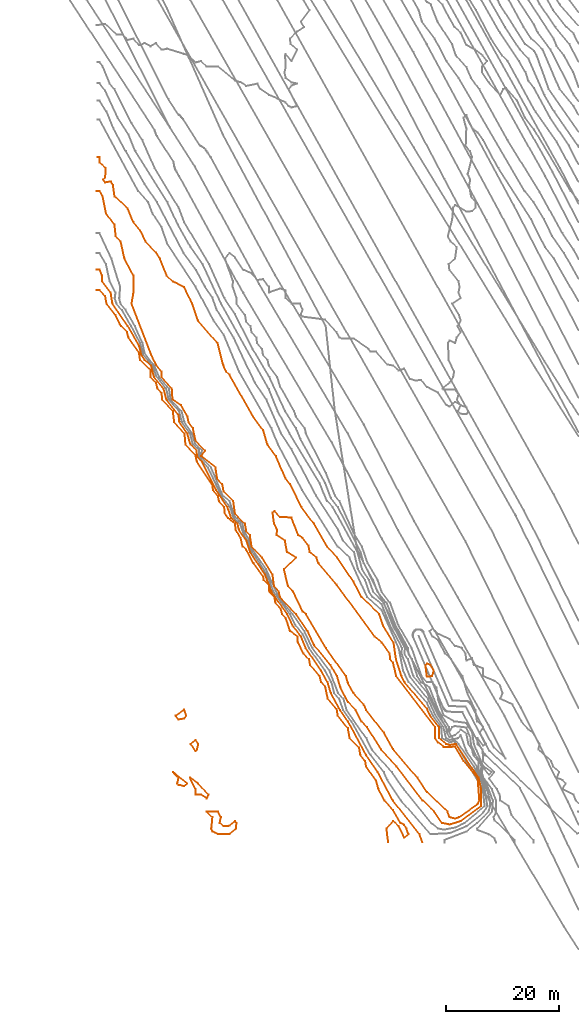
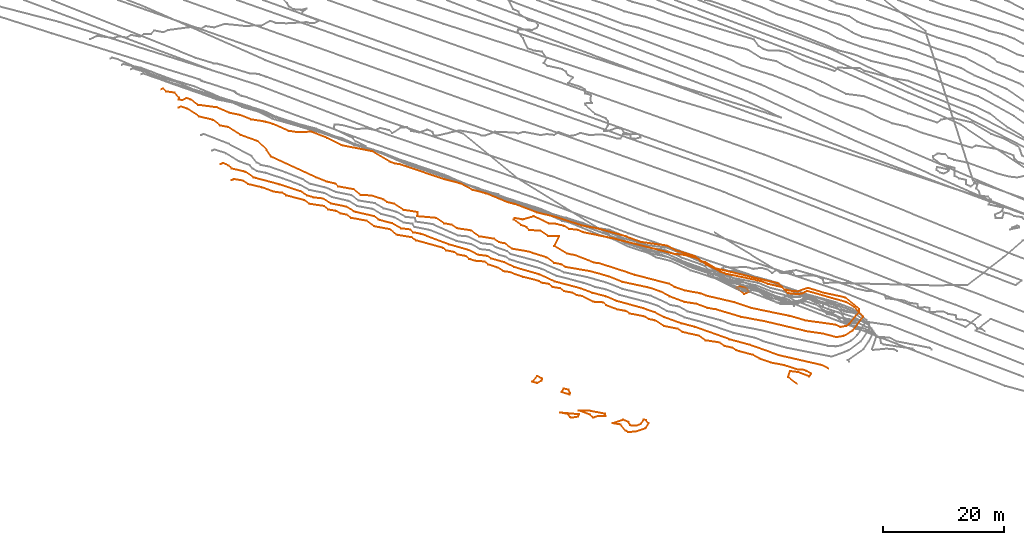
# Not in any storey, part 99 of 419: 10 proxies.
"""IFC2X3 model written with IfcOpenShell, lengths in metres."""

from ifc_helpers import new_model, entity, si_unit, frame, origin_with_axes, place, context, subcontext, project, element, save


model = new_model("IFC2X3")

# Units and contexts
model_context = context("Model", 3, precision=1e-05, world=origin_with_axes())
body_context = subcontext(model_context, "Body", "Model", "MODEL_VIEW")
ifc_project = project(units=[si_unit("AREAUNIT", "SQUARE_METRE"), si_unit("LENGTHUNIT", "METRE")], contexts=[model_context])

# Proxies
proxy_1_placement = place(None, frame((57.8288628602, 29.8976909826, 2.0), z_axis=(0.0, 0.0, 1.0), x_axis=(1.0, 0.0, 0.0)))
element("IfcBuildingElementProxy", 1, at=proxy_1_placement, Name="Contour 2.0 m", ObjectType="NOTDEFINED", context=body_context, shape_type="GeometricCurveSet", body=[
    entity("IfcGeometricCurveSet", [entity("IfcPolyline", [entity("IfcCartesianPoint", [0.2631575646, -2.0747663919, 0.0]), entity("IfcCartesianPoint", [1.1520466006, -2.0, 0.0]), entity("IfcCartesianPoint", [1.4853797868, -1.0, 0.0]), entity("IfcCartesianPoint", [0.8881575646, 0.0, 0.0]), entity("IfcCartesianPoint", [0.2631575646, 0.2272724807, 0.0]), entity("IfcCartesianPoint", [0.0, 0.0, 0.0]), entity("IfcCartesianPoint", [0.2631575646, -2.0747663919, 0.0])])]),
])
proxy_2_placement = place(None, frame((13.5465658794, 20.8976909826, 4.0), z_axis=(0.0, 0.0, 1.0), x_axis=(1.0, 0.0, 0.0)))
element("IfcBuildingElementProxy", 2, at=proxy_2_placement, Name="Contour 4.0 m", ObjectType="NOTDEFINED", context=body_context, shape_type="GeometricCurveSet", body=[
    entity("IfcGeometricCurveSet", [entity("IfcPolyline", [entity("IfcCartesianPoint", [1.909090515, 0.0, 0.0]), entity("IfcCartesianPoint", [1.5454545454, -0.5000062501, 0.0]), entity("IfcCartesianPoint", [0.5454545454, -0.666666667, 0.0]), entity("IfcCartesianPoint", [0.0, 0.0, 0.0]), entity("IfcCartesianPoint", [1.5454545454, 1.0454555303, 0.0]), entity("IfcCartesianPoint", [1.909090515, 0.0, 0.0])])]),
])
proxy_3_placement = place(None, frame((16.2586864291, 15.8976909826, 4.0), z_axis=(0.0, 0.0, 1.0), x_axis=(1.0, 0.0, 0.0)))
element("IfcBuildingElementProxy", 3, at=proxy_3_placement, Name="Contour 4.0 m", ObjectType="NOTDEFINED", context=body_context, shape_type="GeometricCurveSet", body=[
    entity("IfcGeometricCurveSet", [entity("IfcPolyline", [entity("IfcCartesianPoint", [1.083338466, -1.0, 0.0]), entity("IfcCartesianPoint", [0.8333339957, -1.2500044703, 0.0]), entity("IfcCartesianPoint", [0.0, 0.0, 0.0]), entity("IfcCartesianPoint", [0.8333339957, 0.7142866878, 0.0]), entity("IfcCartesianPoint", [1.3333451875, 0.0, 0.0]), entity("IfcCartesianPoint", [1.083338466, -1.0, 0.0])])]),
])
proxy_4_placement = place(None, frame((13.0920204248, 10.8977909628, 4.0), z_axis=(0.0, 0.0, 1.0), x_axis=(1.0, 0.0, 0.0)))
element("IfcBuildingElementProxy", 4, at=proxy_4_placement, Name="Contour 4.0 m", ObjectType="NOTDEFINED", context=body_context, shape_type="GeometricCurveSet", body=[
    entity("IfcGeometricCurveSet", [entity("IfcPolyline", [entity("IfcCartesianPoint", [2.5000559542, -2.0000999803, 0.0]), entity("IfcCartesianPoint", [2.0, -2.5001559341, 0.0]), entity("IfcCartesianPoint", [1.0, -2.2501044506, 0.0]), entity("IfcCartesianPoint", [0.7499955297, -2.0000999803, 0.0]), entity("IfcCartesianPoint", [0.9999000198, -1.0000999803, 0.0]), entity("IfcCartesianPoint", [0.0, 0.0, 0.0]), entity("IfcCartesianPoint", [2.5000559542, -2.0000999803, 0.0])])]),
])
proxy_5_placement = place(None, frame((16.0919204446, 9.8976909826, 4.0), z_axis=(0.0, 0.0, 1.0), x_axis=(1.0, 0.0, 0.0)))
element("IfcBuildingElementProxy", 5, at=proxy_5_placement, Name="Contour 4.0 m", ObjectType="NOTDEFINED", context=body_context, shape_type="GeometricCurveSet", body=[
    entity("IfcGeometricCurveSet", [entity("IfcPolyline", [entity("IfcCartesianPoint", [3.2858142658, -3.0, 0.0]), entity("IfcCartesianPoint", [3.0000999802, -3.666666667, 0.0]), entity("IfcCartesianPoint", [2.0000999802, -3.0000499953, 0.0]), entity("IfcCartesianPoint", [1.0000999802, -3.0000999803, 0.0]), entity("IfcCartesianPoint", [1.0000499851, -2.0, 0.0]), entity("IfcCartesianPoint", [0.0, 0.0, 0.0]), entity("IfcCartesianPoint", [1.5001559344, -1.0, 0.0]), entity("IfcCartesianPoint", [3.2858142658, -3.0, 0.0])])]),
])
proxy_6_placement = place(None, frame((30.7586870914, 56.8976909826, 9.0), z_axis=(0.0, 0.0, 1.0), x_axis=(1.0, 0.0, 0.0)))
element("IfcBuildingElementProxy", 6, at=proxy_6_placement, Name="Contour 9.0 m", ObjectType="NOTDEFINED", context=body_context, shape_type="GeometricCurveSet", body=[
    entity("IfcGeometricCurveSet", [entity("IfcPolyline", [entity("IfcCartesianPoint", [33.02777844, -54.0, 0.0]), entity("IfcCartesianPoint", [32.3333333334, -54.229357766, 0.0]), entity("IfcCartesianPoint", [31.3717957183, -54.0, 0.0]), entity("IfcCartesianPoint", [30.9674804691, -53.0, 0.0]), entity("IfcCartesianPoint", [27.3333333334, -49.5142860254, 0.0]), entity("IfcCartesianPoint", [25.6666657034, -47.0, 0.0]), entity("IfcCartesianPoint", [21.3333333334, -41.9090889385, 0.0]), entity("IfcCartesianPoint", [19.7117127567, -39.0, 0.0]), entity("IfcCartesianPoint", [16.5980395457, -35.0, 0.0]), entity("IfcCartesianPoint", [16.1583339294, -34.0, 0.0]), entity("IfcCartesianPoint", [14.3333305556, -32.0, 0.0]), entity("IfcCartesianPoint", [13.3333333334, -30.2352937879, 0.0]), entity("IfcCartesianPoint", [12.9999989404, -29.0, 0.0]), entity("IfcCartesianPoint", [9.4444467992, -24.0, 0.0]), entity("IfcCartesianPoint", [5.9047599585, -18.0, 0.0]), entity("IfcCartesianPoint", [5.3333333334, -17.5294124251, 0.0]), entity("IfcCartesianPoint", [3.6410250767, -14.0, 0.0]), entity("IfcCartesianPoint", [2.7179498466, -13.0, 0.0]), entity("IfcCartesianPoint", [2.0000035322, -10.0, 0.0]), entity("IfcCartesianPoint", [4.1190485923, -8.0, 0.0]), entity("IfcCartesianPoint", [2.5476180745, -7.0, 0.0]), entity("IfcCartesianPoint", [2.1794837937, -5.0, 0.0]), entity("IfcCartesianPoint", [0.7083303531, -4.0, 0.0]), entity("IfcCartesianPoint", [0.7878799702, -3.0, 0.0]), entity("IfcCartesianPoint", [0.2619033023, -2.0, 0.0]), entity("IfcCartesianPoint", [0.0, 0.0, 0.0]), entity("IfcCartesianPoint", [0.3333333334, 0.2500059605, 0.0]), entity("IfcCartesianPoint", [1.3333333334, -0.7999961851, 0.0]), entity("IfcCartesianPoint", [3.3333333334, -0.8823503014, 0.0]), entity("IfcCartesianPoint", [4.533337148, -4.0, 0.0]), entity("IfcCartesianPoint", [5.3333333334, -4.5333341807, 0.0]), entity("IfcCartesianPoint", [6.3333333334, -5.8181786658, 0.0]), entity("IfcCartesianPoint", [6.5833313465, -7.0, 0.0]), entity("IfcCartesianPoint", [7.7708318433, -8.0, 0.0]), entity("IfcCartesianPoint", [8.1190485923, -9.0, 0.0]), entity("IfcCartesianPoint", [11.3333333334, -12.7333329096, 0.0]), entity("IfcCartesianPoint", [18.0952372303, -22.0, 0.0]), entity("IfcCartesianPoint", [19.3333362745, -23.0, 0.0]), entity("IfcCartesianPoint", [20.7564101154, -25.0, 0.0]), entity("IfcCartesianPoint", [20.7916667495, -26.0, 0.0]), entity("IfcCartesianPoint", [21.3333333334, -26.5531916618, 0.0]), entity("IfcCartesianPoint", [21.9029533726, -29.0, 0.0]), entity("IfcCartesianPoint", [28.8123248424, -38.0, 0.0]), entity("IfcCartesianPoint", [28.7793763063, -40.0, 0.0]), entity("IfcCartesianPoint", [29.3333333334, -40.7333336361, 0.0]), entity("IfcCartesianPoint", [30.3333333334, -41.5422538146, 0.0]), entity("IfcCartesianPoint", [32.3333333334, -41.5076921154, 0.0]), entity("IfcCartesianPoint", [33.8579236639, -44.0, 0.0]), entity("IfcCartesianPoint", [36.3333333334, -47.0273978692, 0.0]), entity("IfcCartesianPoint", [36.6314983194, -51.0, 0.0]), entity("IfcCartesianPoint", [36.3333333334, -51.6701031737, 0.0]), entity("IfcCartesianPoint", [33.02777844, -54.0, 0.0])])]),
])
proxy_7_placement = place(None, frame((-0.4079795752, 113.8976709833, 8.0), z_axis=(0.0, 0.0, 1.0), x_axis=(1.0, 0.0, 0.0)))
element("IfcBuildingElementProxy", 7, at=proxy_7_placement, Name="Contour 8.0 m", ObjectType="NOTDEFINED", context=body_context, shape_type="GeometricCurveSet", body=[
    entity("IfcGeometricCurveSet", [entity("IfcPolyline", [entity("IfcCartesianPoint", [0.0, 6.0000266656, 0.0]), entity("IfcCartesianPoint", [0.5, 6.0000266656, 0.0]), entity("IfcCartesianPoint", [0.5000055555, 5.0000199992, 0.0]), entity("IfcCartesianPoint", [1.5869583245, 4.0000199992, 0.0]), entity("IfcCartesianPoint", [1.5, 2.3333533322, 0.0]), entity("IfcCartesianPoint", [1.1666666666, 2.0000199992, 0.0]), entity("IfcCartesianPoint", [1.5, 1.5000699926, 0.0]), entity("IfcCartesianPoint", [2.5, 1.6666866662, 0.0]), entity("IfcCartesianPoint", [2.8636355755, 1.0000199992, 0.0]), entity("IfcCartesianPoint", [3.1666666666, -0.9999800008, 0.0]), entity("IfcCartesianPoint", [5.5, -3.14283909, 0.0]), entity("IfcCartesianPoint", [6.5, -5.5714105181, 0.0]), entity("IfcCartesianPoint", [7.7222257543, -6.9999800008, 0.0]), entity("IfcCartesianPoint", [8.6666699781, -8.9999800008, 0.0]), entity("IfcCartesianPoint", [10.5, -10.8999780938, 0.0]), entity("IfcCartesianPoint", [11.1842109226, -11.9999800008, 0.0]), entity("IfcCartesianPoint", [12.4090893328, -14.9999800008, 0.0]), entity("IfcCartesianPoint", [13.5, -16.0908906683, 0.0]), entity("IfcCartesianPoint", [15.5, -17.0526126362, 0.0]), entity("IfcCartesianPoint", [16.9230760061, -19.9999800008, 0.0]), entity("IfcCartesianPoint", [17.9374985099, -22.9999800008, 0.0]), entity("IfcCartesianPoint", [21.4210522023, -26.9999800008, 0.0]), entity("IfcCartesianPoint", [22.4374985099, -30.9999800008, 0.0]), entity("IfcCartesianPoint", [22.9444444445, -31.9999800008, 0.0]), entity("IfcCartesianPoint", [23.5, -32.5555355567, 0.0]), entity("IfcCartesianPoint", [27.7173918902, -39.9999800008, 0.0]), entity("IfcCartesianPoint", [29.5, -42.4285520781, 0.0]), entity("IfcCartesianPoint", [30.2608695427, -44.9999800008, 0.0]), entity("IfcCartesianPoint", [31.7372886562, -46.9999800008, 0.0]), entity("IfcCartesianPoint", [33.4787229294, -50.9999800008, 0.0]), entity("IfcCartesianPoint", [34.3039216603, -51.9999800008, 0.0]), entity("IfcCartesianPoint", [36.2619047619, -55.9999800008, 0.0]), entity("IfcCartesianPoint", [38.5, -58.9999767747, 0.0]), entity("IfcCartesianPoint", [40.8269232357, -62.9999800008, 0.0]), entity("IfcCartesianPoint", [42.6304355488, -64.9999800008, 0.0]), entity("IfcCartesianPoint", [45.5, -69.2608492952, 0.0]), entity("IfcCartesianPoint", [46.9157302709, -71.9999800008, 0.0]), entity("IfcCartesianPoint", [50.0520833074, -74.9999800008, 0.0]), entity("IfcCartesianPoint", [50.7333331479, -76.9999800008, 0.0]), entity("IfcCartesianPoint", [52.5802137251, -79.9999800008, 0.0]), entity("IfcCartesianPoint", [53.0248225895, -82.9999800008, 0.0]), entity("IfcCartesianPoint", [53.9962405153, -85.9999800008, 0.0]), entity("IfcCartesianPoint", [54.5229005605, -86.9999800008, 0.0]), entity("IfcCartesianPoint", [58.5, -91.7790501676, 0.0]), entity("IfcCartesianPoint", [59.0728644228, -92.9999800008, 0.0]), entity("IfcCartesianPoint", [60.6496063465, -94.9999800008, 0.0]), entity("IfcCartesianPoint", [60.6321836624, -96.9999800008, 0.0]), entity("IfcCartesianPoint", [61.8709673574, -97.9999800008, 0.0]), entity("IfcCartesianPoint", [62.5, -98.1920981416, 0.0]), entity("IfcCartesianPoint", [63.662679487, -97.9999800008, 0.0]), entity("IfcCartesianPoint", [67.6683848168, -103.9999800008, 0.0]), entity("IfcCartesianPoint", [68.1249999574, -105.9999800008, 0.0]), entity("IfcCartesianPoint", [68.0666667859, -108.9999800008, 0.0]), entity("IfcCartesianPoint", [64.5, -111.6793693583, 0.0]), entity("IfcCartesianPoint", [62.5, -112.2675857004, 0.0]), entity("IfcCartesianPoint", [61.184210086, -111.9999800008, 0.0]), entity("IfcCartesianPoint", [59.7884617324, -109.9999800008, 0.0]), entity("IfcCartesianPoint", [57.75, -107.9999800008, 0.0]), entity("IfcCartesianPoint", [53.1666666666, -101.9999800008, 0.0]), entity("IfcCartesianPoint", [50.4272728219, -98.9999800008, 0.0]), entity("IfcCartesianPoint", [47.8913043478, -94.9999800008, 0.0]), entity("IfcCartesianPoint", [46.9285714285, -93.9999800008, 0.0]), entity("IfcCartesianPoint", [45.8962266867, -91.9999800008, 0.0]), entity("IfcCartesianPoint", [44.5, -90.6052425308, 0.0]), entity("IfcCartesianPoint", [43.1859503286, -87.9999800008, 0.0]), entity("IfcCartesianPoint", [42.580459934, -85.9999800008, 0.0]), entity("IfcCartesianPoint", [41.4218747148, -83.9999800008, 0.0]), entity("IfcCartesianPoint", [38.5, -80.457426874, 0.0]), entity("IfcCartesianPoint", [37.3764705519, -77.9999800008, 0.0]), entity("IfcCartesianPoint", [35.3103448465, -74.9999800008, 0.0]), entity("IfcCartesianPoint", [32.4651973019, -71.9999800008, 0.0]), entity("IfcCartesianPoint", [32.2664974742, -70.9999800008, 0.0]), entity("IfcCartesianPoint", [31.4197397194, -69.9999800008, 0.0]), entity("IfcCartesianPoint", [31.1436781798, -67.9999800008, 0.0]), entity("IfcCartesianPoint", [29.3163266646, -64.9999800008, 0.0]), entity("IfcCartesianPoint", [27.4480519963, -62.9999800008, 0.0]), entity("IfcCartesianPoint", [27.1350364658, -60.9999800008, 0.0]), entity("IfcCartesianPoint", [26.5, -60.2749799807, 0.0]), entity("IfcCartesianPoint", [26.2675439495, -58.9999800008, 0.0]), entity("IfcCartesianPoint", [24.5, -57.1568426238, 0.0]), entity("IfcCartesianPoint", [24.1815286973, -54.9999800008, 0.0]), entity("IfcCartesianPoint", [22.5, -53.3265104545, 0.0]), entity("IfcCartesianPoint", [22.2471266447, -51.9999800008, 0.0]), entity("IfcCartesianPoint", [21.3357142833, -50.9999800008, 0.0]), entity("IfcCartesianPoint", [21.0225226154, -48.9999800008, 0.0]), entity("IfcCartesianPoint", [18.5200004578, -46.9999800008, 0.0]), entity("IfcCartesianPoint", [19.1839379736, -45.9999800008, 0.0]), entity("IfcCartesianPoint", [17.5, -44.2887122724, 0.0]), entity("IfcCartesianPoint", [17.0306122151, -41.9999800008, 0.0]), entity("IfcCartesianPoint", [16.2608696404, -40.9999800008, 0.0]), entity("IfcCartesianPoint", [16.0940594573, -39.9999800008, 0.0]), entity("IfcCartesianPoint", [14.9383563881, -37.9999800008, 0.0]), entity("IfcCartesianPoint", [13.4333333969, -36.9999800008, 0.0]), entity("IfcCartesianPoint", [13.3061223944, -34.9999800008, 0.0]), entity("IfcCartesianPoint", [11.4999995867, -32.9999800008, 0.0]), entity("IfcCartesianPoint", [11.4565217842, -31.9999800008, 0.0]), entity("IfcCartesianPoint", [10.5, -30.8124790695, 0.0]), entity("IfcCartesianPoint", [9.6538458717, -28.9999800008, 0.0]), entity("IfcCartesianPoint", [6.166665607, -19.9999800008, 0.0]), entity("IfcCartesianPoint", [6.4999916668, -17.9999800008, 0.0]), entity("IfcCartesianPoint", [6.4999916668, -14.9999800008, 0.0]), entity("IfcCartesianPoint", [4.8999993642, -11.9999800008, 0.0]), entity("IfcCartesianPoint", [4.2500019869, -8.9999800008, 0.0]), entity("IfcCartesianPoint", [3.3636374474, -7.9999800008, 0.0]), entity("IfcCartesianPoint", [3.1428566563, -5.9999800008, 0.0]), entity("IfcCartesianPoint", [1.6666660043, -3.9999800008, 0.0]), entity("IfcCartesianPoint", [1.0555567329, -0.9999800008, 0.0]), entity("IfcCartesianPoint", [0.5, 0.0, 0.0]), entity("IfcCartesianPoint", [0.0, 0.0, 0.0])])]),
])
proxy_8_placement = place(None, frame((19.0919704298, 3.8976909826, 4.0), z_axis=(0.0, 0.0, 1.0), x_axis=(1.0, 0.0, 0.0)))
element("IfcBuildingElementProxy", 8, at=proxy_8_placement, Name="Contour 4.0 m", ObjectType="NOTDEFINED", context=body_context, shape_type="GeometricCurveSet", body=[
    entity("IfcGeometricCurveSet", [entity("IfcPolyline", [entity("IfcCartesianPoint", [4.0000833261, -4.0, 0.0]), entity("IfcCartesianPoint", [1.9999500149, -4.0, 0.0]), entity("IfcCartesianPoint", [1.000049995, -3.5000559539, 0.0]), entity("IfcCartesianPoint", [0.8000461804, -3.0, 0.0]), entity("IfcCartesianPoint", [0.9999500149, -1.0, 0.0]), entity("IfcCartesianPoint", [0.0, 0.0, 0.0]), entity("IfcCartesianPoint", [2.0001499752, 0.0, 0.0]), entity("IfcCartesianPoint", [2.5000624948, -1.0, 0.0]), entity("IfcCartesianPoint", [2.2500544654, -2.0, 0.0]), entity("IfcCartesianPoint", [3.000049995, -2.5999999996, 0.0]), entity("IfcCartesianPoint", [4.000049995, -2.4999440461, 0.0]), entity("IfcCartesianPoint", [5.000049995, -1.6666613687, 0.0]), entity("IfcCartesianPoint", [5.2500544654, -2.0, 0.0]), entity("IfcCartesianPoint", [5.1667199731, -3.0, 0.0]), entity("IfcCartesianPoint", [4.0000833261, -4.0, 0.0])])]),
])
proxy_9_placement = place(None, frame((-0.4079795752, 96.2823063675, 4.0), z_axis=(0.0, 0.0, 1.0), x_axis=(1.0, 0.0, 0.0)))
element("IfcBuildingElementProxy", 9, at=proxy_9_placement, Name="Contour 4.0 m", ObjectType="NOTDEFINED", context=body_context, shape_type="GeometricCurveSet", body=[
    entity("IfcGeometricCurveSet", [entity("IfcPolyline", [entity("IfcCartesianPoint", [51.6428571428, -97.884615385, 0.0]), entity("IfcCartesianPoint", [51.3461538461, -95.384615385, 0.0]), entity("IfcCartesianPoint", [52.5, -94.051282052, 0.0]), entity("IfcCartesianPoint", [53.5, -94.9846153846, 0.0]), entity("IfcCartesianPoint", [54.5, -97.0096135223, 0.0]), entity("IfcCartesianPoint", [55.2142857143, -96.384615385, 0.0]), entity("IfcCartesianPoint", [54.8793102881, -95.384615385, 0.0]), entity("IfcCartesianPoint", [54.5, -94.7375563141, 0.0]), entity("IfcCartesianPoint", [53.8333333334, -94.384615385, 0.0]), entity("IfcCartesianPoint", [52.5, -92.0867428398, 0.0]), entity("IfcCartesianPoint", [50.9999937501, -90.384615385, 0.0]), entity("IfcCartesianPoint", [49.9193552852, -88.384615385, 0.0]), entity("IfcCartesianPoint", [49.5, -86.8846203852, 0.0]), entity("IfcCartesianPoint", [47.7407409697, -84.384615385, 0.0]), entity("IfcCartesianPoint", [47.554053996, -83.384615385, 0.0]), entity("IfcCartesianPoint", [46.7197802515, -82.384615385, 0.0]), entity("IfcCartesianPoint", [46.5, -81.0631868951, 0.0]), entity("IfcCartesianPoint", [44.8333333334, -79.384615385, 0.0]), entity("IfcCartesianPoint", [44.5, -77.6068373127, 0.0]), entity("IfcCartesianPoint", [42.7142858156, -75.384615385, 0.0]), entity("IfcCartesianPoint", [42.5, -74.170329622, 0.0]), entity("IfcCartesianPoint", [40.9390244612, -72.384615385, 0.0]), entity("IfcCartesianPoint", [40.5, -70.2122017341, 0.0]), entity("IfcCartesianPoint", [39.7615385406, -69.384615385, 0.0]), entity("IfcCartesianPoint", [39.5, -68.3391608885, 0.0]), entity("IfcCartesianPoint", [37.8137256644, -66.384615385, 0.0]), entity("IfcCartesianPoint", [37.6240876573, -65.384615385, 0.0]), entity("IfcCartesianPoint", [36.6494254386, -64.384615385, 0.0]), entity("IfcCartesianPoint", [35.6355932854, -62.384615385, 0.0]), entity("IfcCartesianPoint", [35.6017964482, -61.384615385, 0.0]), entity("IfcCartesianPoint", [34.2368415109, -60.384615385, 0.0]), entity("IfcCartesianPoint", [33.5, -58.0615384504, 0.0]), entity("IfcCartesianPoint", [32.8623188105, -57.384615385, 0.0]), entity("IfcCartesianPoint", [32.5848214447, -56.384615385, 0.0]), entity("IfcCartesianPoint", [31.6481481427, -55.384615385, 0.0]), entity("IfcCartesianPoint", [31.5, -54.3242379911, 0.0]), entity("IfcCartesianPoint", [30.5879120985, -53.384615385, 0.0]), entity("IfcCartesianPoint", [30.5, -52.2807192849, 0.0]), entity("IfcCartesianPoint", [29.5960698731, -51.384615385, 0.0]), entity("IfcCartesianPoint", [29.5, -50.7179489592, 0.0]), entity("IfcCartesianPoint", [27.7926829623, -48.384615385, 0.0]), entity("IfcCartesianPoint", [26.5, -45.9880635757, 0.0]), entity("IfcCartesianPoint", [25.8518519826, -45.384615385, 0.0]), entity("IfcCartesianPoint", [25.5, -43.9194990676, 0.0]), entity("IfcCartesianPoint", [24.6085714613, -42.384615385, 0.0]), entity("IfcCartesianPoint", [24.5217391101, -41.384615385, 0.0]), entity("IfcCartesianPoint", [23.2419356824, -40.384615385, 0.0]), entity("IfcCartesianPoint", [22.6489362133, -39.384615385, 0.0]), entity("IfcCartesianPoint", [22.5955056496, -38.384615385, 0.0]), entity("IfcCartesianPoint", [21.6525424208, -37.384615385, 0.0]), entity("IfcCartesianPoint", [21.5, -36.4372480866, 0.0]), entity("IfcCartesianPoint", [20.6040462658, -35.384615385, 0.0]), entity("IfcCartesianPoint", [20.5, -34.4846152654, 0.0]), entity("IfcCartesianPoint", [17.7388059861, -30.384615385, 0.0]), entity("IfcCartesianPoint", [17.5, -29.2353618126, 0.0]), entity("IfcCartesianPoint", [15.7395833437, -27.384615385, 0.0]), entity("IfcCartesianPoint", [15.5561224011, -25.384615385, 0.0]), entity("IfcCartesianPoint", [13.7209302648, -23.384615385, 0.0]), entity("IfcCartesianPoint", [13.5, -21.3846230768, 0.0]), entity("IfcCartesianPoint", [11.6240876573, -19.384615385, 0.0]), entity("IfcCartesianPoint", [11.5, -18.2233253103, 0.0]), entity("IfcCartesianPoint", [10.7571425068, -17.384615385, 0.0]), entity("IfcCartesianPoint", [10.4999937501, -16.384615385, 0.0]), entity("IfcCartesianPoint", [9.5650887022, -15.384615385, 0.0]), entity("IfcCartesianPoint", [9.5, -14.1782660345, 0.0]), entity("IfcCartesianPoint", [7.6779661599, -12.384615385, 0.0]), entity("IfcCartesianPoint", [7.5, -11.0367896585, 0.0]), entity("IfcCartesianPoint", [5.6149424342, -8.384615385, 0.0]), entity("IfcCartesianPoint", [5.3611106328, -7.384615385, 0.0]), entity("IfcCartesianPoint", [4.3076917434, -6.384615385, 0.0]), entity("IfcCartesianPoint", [3.3148142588, -4.384615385, 0.0]), entity("IfcCartesianPoint", [1.7345679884, -2.384615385, 0.0]), entity("IfcCartesianPoint", [1.5, -1.051282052, 0.0]), entity("IfcCartesianPoint", [0.5, 0.0, 0.0]), entity("IfcCartesianPoint", [0.0, 0.0, 0.0])])]),
])
proxy_10_placement = place(None, frame((-0.4079795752, 99.9846474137, 5.0), z_axis=(0.0, 0.0, 1.0), x_axis=(1.0, 0.0, 0.0)))
element("IfcBuildingElementProxy", 10, at=proxy_10_placement, Name="Contour 5.0 m", ObjectType="NOTDEFINED", context=body_context, shape_type="GeometricCurveSet", body=[
    entity("IfcGeometricCurveSet", [entity("IfcPolyline", [entity("IfcCartesianPoint", [57.7250003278, -101.5869564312, 0.0]), entity("IfcCartesianPoint", [57.1666666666, -100.0869564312, 0.0]), entity("IfcCartesianPoint", [52.4684208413, -94.0869564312, 0.0]), entity("IfcCartesianPoint", [49.805263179, -89.0869564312, 0.0]), entity("IfcCartesianPoint", [47.7357723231, -86.0869564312, 0.0]), entity("IfcCartesianPoint", [44.5301205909, -80.0869564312, 0.0]), entity("IfcCartesianPoint", [43.125, -78.0869564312, 0.0]), entity("IfcCartesianPoint", [41.4831932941, -75.0869564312, 0.0]), entity("IfcCartesianPoint", [40.8687943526, -73.0869564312, 0.0]), entity("IfcCartesianPoint", [39.7624112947, -71.0869564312, 0.0]), entity("IfcCartesianPoint", [37.0416666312, -67.0869564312, 0.0]), entity("IfcCartesianPoint", [36.200598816, -65.0869564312, 0.0]), entity("IfcCartesianPoint", [34.7324323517, -63.0869564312, 0.0]), entity("IfcCartesianPoint", [33.7604650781, -61.0869564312, 0.0]), entity("IfcCartesianPoint", [30.9542124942, -57.0869564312, 0.0]), entity("IfcCartesianPoint", [29.821299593, -54.0869564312, 0.0]), entity("IfcCartesianPoint", [27.2068964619, -50.0869564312, 0.0]), entity("IfcCartesianPoint", [26.5088758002, -48.0869564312, 0.0]), entity("IfcCartesianPoint", [25.1800000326, -46.0869564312, 0.0]), entity("IfcCartesianPoint", [24.9565217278, -45.0869564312, 0.0]), entity("IfcCartesianPoint", [23.8498098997, -44.0869564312, 0.0]), entity("IfcCartesianPoint", [23.1573033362, -42.0869564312, 0.0]), entity("IfcCartesianPoint", [21.1820808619, -39.0869564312, 0.0]), entity("IfcCartesianPoint", [18.6512345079, -34.0869564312, 0.0]), entity("IfcCartesianPoint", [17.7689486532, -33.0869564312, 0.0]), entity("IfcCartesianPoint", [17.703791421, -32.0869564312, 0.0]), entity("IfcCartesianPoint", [16.6194690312, -31.0869564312, 0.0]), entity("IfcCartesianPoint", [16.066326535, -29.0869564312, 0.0]), entity("IfcCartesianPoint", [14.6447368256, -27.0869564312, 0.0]), entity("IfcCartesianPoint", [14.5, -25.8026427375, 0.0]), entity("IfcCartesianPoint", [12.3540147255, -23.0869564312, 0.0]), entity("IfcCartesianPoint", [11.8425925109, -21.0869564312, 0.0]), entity("IfcCartesianPoint", [10.1568047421, -19.0869564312, 0.0]), entity("IfcCartesianPoint", [9.6440922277, -17.0869564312, 0.0]), entity("IfcCartesianPoint", [8.5, -16.0693092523, 0.0]), entity("IfcCartesianPoint", [7.892727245, -15.0869564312, 0.0]), entity("IfcCartesianPoint", [7.5, -13.471014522, 0.0]), entity("IfcCartesianPoint", [5.5, -10.0114848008, 0.0]), entity("IfcCartesianPoint", [2.7714286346, -6.0869564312, 0.0]), entity("IfcCartesianPoint", [2.4750000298, -4.0869564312, 0.0]), entity("IfcCartesianPoint", [0.9390244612, -2.0869564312, 0.0]), entity("IfcCartesianPoint", [0.9342105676, -1.0869564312, 0.0]), entity("IfcCartesianPoint", [0.5, 0.0, 0.0]), entity("IfcCartesianPoint", [0.0, 0.0, 0.0])])]),
])

save(model, "model.ifc")
